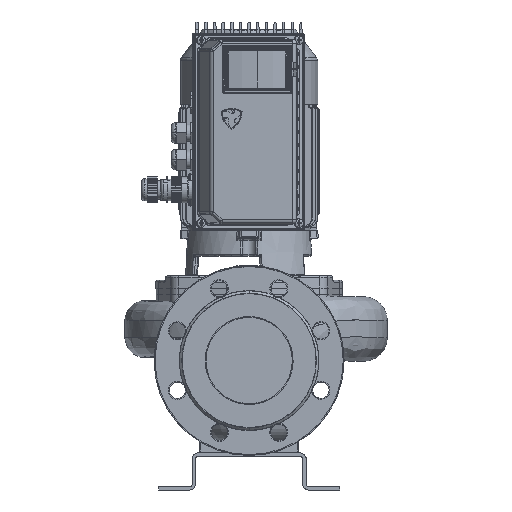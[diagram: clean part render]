
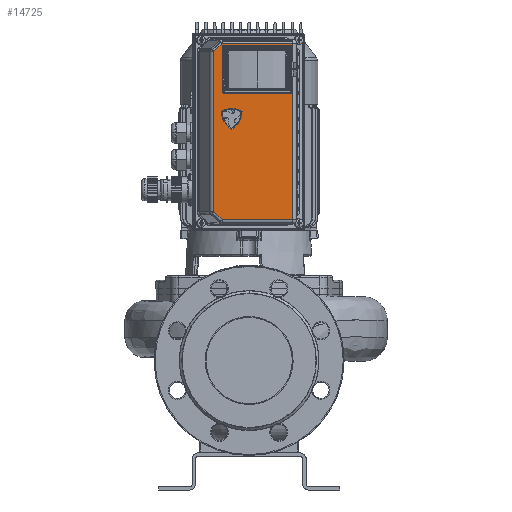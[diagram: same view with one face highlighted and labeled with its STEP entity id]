
A CAD part, front view. The second image highlights one B-rep face of the part: STEP entity #14725.
In plain terms, the highlighted planar face has unit normal (0, -1, 0) as drawn and (0, 0.276, -0.961) by its records, which use the part's own axes.
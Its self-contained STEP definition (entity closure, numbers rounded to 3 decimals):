
#14725=ADVANCED_FACE('',(#30079,#30080),#30081,.F.);
#30079=FACE_BOUND('',#53413,.T.);
#30080=FACE_OUTER_BOUND('',#53414,.T.);
#30081=PLANE('',#53415);
#53413=EDGE_LOOP('',(#89425,#89426,#89427,#89428));
#53414=EDGE_LOOP('',(#89429,#89430,#89431,#89432,#89433,#89434));
#53415=AXIS2_PLACEMENT_3D('',#89435,#89436,#89437);
#89425=ORIENTED_EDGE('',*,*,#122046,.T.);
#89426=ORIENTED_EDGE('',*,*,#122049,.T.);
#89427=ORIENTED_EDGE('',*,*,#122039,.T.);
#89428=ORIENTED_EDGE('',*,*,#122043,.T.);
#89429=ORIENTED_EDGE('',*,*,#121135,.F.);
#89430=ORIENTED_EDGE('',*,*,#122887,.F.);
#89431=ORIENTED_EDGE('',*,*,#122893,.F.);
#89432=ORIENTED_EDGE('',*,*,#121612,.T.);
#89433=ORIENTED_EDGE('',*,*,#122425,.T.);
#89434=ORIENTED_EDGE('',*,*,#122891,.T.);
#89435=CARTESIAN_POINT('',(0.,13.785,32.694));
#89436=DIRECTION('',(0.0,-0.276,0.961));
#89437=DIRECTION('',(-0.0,0.961,0.276));
#121135=EDGE_CURVE('',#145187,#145189,#145190,.T.);
#121612=EDGE_CURVE('',#146004,#146002,#146005,.T.);
#122039=EDGE_CURVE('',#146725,#146726,#146727,.T.);
#122043=EDGE_CURVE('',#146726,#146731,#146732,.T.);
#122046=EDGE_CURVE('',#146731,#146735,#146736,.T.);
#122049=EDGE_CURVE('',#146735,#146725,#146739,.T.);
#122425=EDGE_CURVE('',#146002,#147168,#147170,.T.);
#122887=EDGE_CURVE('',#147690,#145187,#147692,.T.);
#122891=EDGE_CURVE('',#147168,#145189,#147696,.T.);
#122893=EDGE_CURVE('',#146004,#147690,#147698,.T.);
#145187=VERTEX_POINT('',#160970);
#145189=VERTEX_POINT('',#160972);
#145190=LINE('',#160973,#160974);
#146002=VERTEX_POINT('',#161913);
#146004=VERTEX_POINT('',#161915);
#146005=LINE('',#161916,#161917);
#146725=VERTEX_POINT('',#162776);
#146726=VERTEX_POINT('',#162777);
#146727=LINE('',#162778,#162779);
#146731=VERTEX_POINT('',#162785);
#146732=LINE('',#162786,#162787);
#146735=VERTEX_POINT('',#162791);
#146736=LINE('',#162792,#162793);
#146739=LINE('',#162797,#162798);
#147168=VERTEX_POINT('',#163278);
#147170=LINE('',#163280,#163281);
#147690=VERTEX_POINT('',#163899);
#147692=LINE('',#163901,#163902);
#147696=LINE('',#163906,#163907);
#147698=LINE('',#163909,#163910);
#160970=CARTESIAN_POINT('',(-102.0,48.307,42.593));
#160972=CARTESIAN_POINT('',(-102.0,-29.808,20.194));
#160973=CARTESIAN_POINT('',(-102.0,-21.808,22.488));
#160974=VECTOR('',#181573,1.);
#161913=CARTESIAN_POINT('',(102.0,48.307,42.593));
#161915=CARTESIAN_POINT('',(92.929,57.378,45.194));
#161916=CARTESIAN_POINT('',(81.022,69.285,48.608));
#161917=VECTOR('',#182463,1.);
#162776=CARTESIAN_POINT('',(-50.,42.286,40.866));
#162777=CARTESIAN_POINT('',(-95.,42.286,40.866));
#162778=CARTESIAN_POINT('',(-36.25,42.286,40.866));
#162779=VECTOR('',#183251,1.);
#162785=CARTESIAN_POINT('',(-95.,-24.041,21.847));
#162786=CARTESIAN_POINT('',(-95.,11.454,32.025));
#162787=VECTOR('',#183254,1.);
#162791=CARTESIAN_POINT('',(-50.,-24.041,21.847));
#162792=CARTESIAN_POINT('',(-36.25,-24.041,21.847));
#162793=VECTOR('',#183256,1.);
#162797=CARTESIAN_POINT('',(-50.,11.454,32.025));
#162798=VECTOR('',#183258,1.);
#163278=CARTESIAN_POINT('',(102.0,-29.808,20.194));
#163280=CARTESIAN_POINT('',(102.0,-21.808,22.488));
#163281=VECTOR('',#183844,1.0);
#163899=CARTESIAN_POINT('',(-92.929,57.378,45.194));
#163901=CARTESIAN_POINT('',(-81.022,69.285,48.608));
#163902=VECTOR('',#184519,1.);
#163906=CARTESIAN_POINT('',(0.,-29.808,20.194));
#163907=VECTOR('',#184523,1.0);
#163909=CARTESIAN_POINT('',(0.,57.378,45.194));
#163910=VECTOR('',#184524,1.0);
#181573=DIRECTION('',(0.,-0.961,-0.276));
#182463=DIRECTION('',(0.693,-0.693,-0.199));
#183251=DIRECTION('',(-1.0,0.,0.));
#183254=DIRECTION('',(-0.0,-0.961,-0.276));
#183256=DIRECTION('',(1.0,0.,0.));
#183258=DIRECTION('',(-0.0,0.961,0.276));
#183844=DIRECTION('',(0.,-0.961,-0.276));
#184519=DIRECTION('',(-0.693,-0.693,-0.199));
#184523=DIRECTION('',(-1.0,0.0,0.0));
#184524=DIRECTION('',(-1.0,0.0,0.0));
